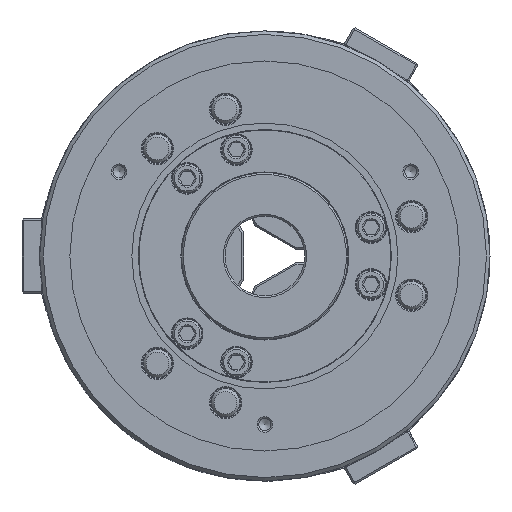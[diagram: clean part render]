
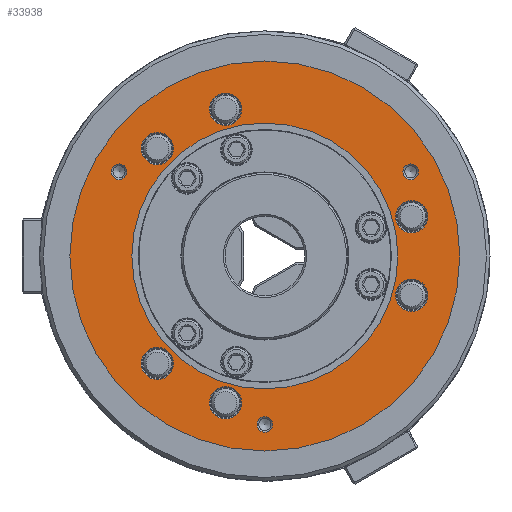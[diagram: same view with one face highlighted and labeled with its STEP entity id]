
A CAD part, left-side view. The second image highlights one B-rep face of the part: STEP entity #33938.
In plain terms, the highlighted planar face has unit normal (-1, 0, 0).
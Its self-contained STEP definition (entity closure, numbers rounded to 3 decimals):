
#60 = EDGE_CURVE ( 'NONE', #26208, #26208, #19109, .T. ) ;
#2211 = DIRECTION ( 'NONE',  ( 0., 0., -1. ) ) ;
#2416 = DIRECTION ( 'NONE',  ( 1., 0., 0. ) ) ;
#2620 = AXIS2_PLACEMENT_3D ( 'NONE', #38490, #12063, #10088 ) ;
#2873 = CARTESIAN_POINT ( 'NONE',  ( -95., 110., 0. ) ) ;
#2978 = CIRCLE ( 'NONE', #20679, 9.1 ) ;
#3213 = VERTEX_POINT ( 'NONE', #46284 ) ;
#3833 = DIRECTION ( 'NONE',  ( 0., 0., 1. ) ) ;
#3981 = DIRECTION ( 'NONE',  ( 0., 0., -1. ) ) ;
#5958 = DIRECTION ( 'NONE',  ( 0., 0., -1. ) ) ;
#7465 = DIRECTION ( 'NONE',  ( -1., 0., 0. ) ) ;
#7972 = AXIS2_PLACEMENT_3D ( 'NONE', #16095, #62318, #3981 ) ;
#8492 = CARTESIAN_POINT ( 'NONE',  ( -95., -82.272, 47.5 ) ) ;
#8906 = DIRECTION ( 'NONE',  ( 0., 0., 1. ) ) ;
#9016 = AXIS2_PLACEMENT_3D ( 'NONE', #67612, #38420, #43606 ) ;
#9031 = CARTESIAN_POINT ( 'NONE',  ( -95., 82.272, 47.5 ) ) ;
#10088 = DIRECTION ( 'NONE',  ( 0., 0., 1. ) ) ;
#10988 = EDGE_LOOP ( 'NONE', ( #41197 ) ) ;
#11240 = CARTESIAN_POINT ( 'NONE',  ( -95., 22.187, 73.704 ) ) ;
#11298 = VERTEX_POINT ( 'NONE', #32515 ) ;
#12063 = DIRECTION ( 'NONE',  ( -1., 0., 0. ) ) ;
#13618 = EDGE_CURVE ( 'NONE', #16456, #16456, #32341, .T. ) ;
#14098 = ORIENTED_EDGE ( 'NONE', *, *, #60, .T. ) ;
#14304 = FACE_BOUND ( 'NONE', #16728, .T. ) ;
#14305 = CARTESIAN_POINT ( 'NONE',  ( -95., 0., -90.6 ) ) ;
#15001 = ORIENTED_EDGE ( 'NONE', *, *, #21944, .T. ) ;
#15083 = ORIENTED_EDGE ( 'NONE', *, *, #62509, .T. ) ;
#16095 = CARTESIAN_POINT ( 'NONE',  ( -95., 60.617, -60.617 ) ) ;
#16456 = VERTEX_POINT ( 'NONE', #11240 ) ;
#16641 = EDGE_CURVE ( 'NONE', #46932, #46932, #17044, .T. ) ;
#16728 = EDGE_LOOP ( 'NONE', ( #31790 ) ) ;
#17044 = CIRCLE ( 'NONE', #2620, 110. ) ;
#17207 = CIRCLE ( 'NONE', #64849, 4.4 ) ;
#17209 = CARTESIAN_POINT ( 'NONE',  ( -95., 82.272, 51.9 ) ) ;
#17259 = EDGE_LOOP ( 'NONE', ( #44521 ) ) ;
#18839 = FACE_OUTER_BOUND ( 'NONE', #23480, .T. ) ;
#19109 = CIRCLE ( 'NONE', #7972, 9.1 ) ;
#19714 = AXIS2_PLACEMENT_3D ( 'NONE', #52028, #57572, #62786 ) ;
#19749 = ORIENTED_EDGE ( 'NONE', *, *, #13618, .T. ) ;
#20593 = DIRECTION ( 'NONE',  ( 1., 0., 0. ) ) ;
#20679 = AXIS2_PLACEMENT_3D ( 'NONE', #60405, #2416, #65965 ) ;
#21944 = EDGE_CURVE ( 'NONE', #26745, #26745, #40391, .T. ) ;
#22874 = EDGE_LOOP ( 'NONE', ( #15001 ) ) ;
#23480 = EDGE_LOOP ( 'NONE', ( #63159 ) ) ;
#23544 = EDGE_CURVE ( 'NONE', #47805, #47805, #17207, .T. ) ;
#23663 = EDGE_LOOP ( 'NONE', ( #19749 ) ) ;
#23779 = DIRECTION ( 'NONE',  ( -1., 0., 0. ) ) ;
#23912 = ORIENTED_EDGE ( 'NONE', *, *, #29053, .T. ) ;
#24551 = DIRECTION ( 'NONE',  ( -1., 0., 0. ) ) ;
#24728 = DIRECTION ( 'NONE',  ( 1., 0., 0. ) ) ;
#25269 = CIRCLE ( 'NONE', #19714, 9.1 ) ;
#25697 = DIRECTION ( 'NONE',  ( -1., 0., 0. ) ) ;
#26208 = VERTEX_POINT ( 'NONE', #46380 ) ;
#26745 = VERTEX_POINT ( 'NONE', #30618 ) ;
#29053 = EDGE_CURVE ( 'NONE', #11298, #11298, #49199, .T. ) ;
#30618 = CARTESIAN_POINT ( 'NONE',  ( -95., -82.804, 13.087 ) ) ;
#30647 = FACE_BOUND ( 'NONE', #35904, .T. ) ;
#31790 = ORIENTED_EDGE ( 'NONE', *, *, #23544, .F. ) ;
#32341 = CIRCLE ( 'NONE', #9016, 9.1 ) ;
#32515 = CARTESIAN_POINT ( 'NONE',  ( -95., 22.187, -91.904 ) ) ;
#33938 = ADVANCED_FACE ( 'NONE', ( #14304, #55992, #30647, #40043, #51488, #40740, #45594, #62231, #35864, #34833, #18839 ), #62579, .F. ) ;
#34833 = FACE_BOUND ( 'NONE', #59391, .T. ) ;
#35180 = VERTEX_POINT ( 'NONE', #35865 ) ;
#35563 = AXIS2_PLACEMENT_3D ( 'NONE', #45675, #23779, #61274 ) ;
#35864 = FACE_BOUND ( 'NONE', #59804, .T. ) ;
#35865 = CARTESIAN_POINT ( 'NONE',  ( -95., -82.804, -31.287 ) ) ;
#35904 = EDGE_LOOP ( 'NONE', ( #23912 ) ) ;
#36565 = EDGE_LOOP ( 'NONE', ( #14098 ) ) ;
#37939 = EDGE_CURVE ( 'NONE', #57447, #57447, #40030, .T. ) ;
#38420 = DIRECTION ( 'NONE',  ( 1., 0., 0. ) ) ;
#38490 = CARTESIAN_POINT ( 'NONE',  ( -95., 0., 0. ) ) ;
#40030 = CIRCLE ( 'NONE', #42207, 4.4 ) ;
#40043 = FACE_BOUND ( 'NONE', #36565, .T. ) ;
#40391 = CIRCLE ( 'NONE', #60327, 9.1 ) ;
#40740 = FACE_BOUND ( 'NONE', #23663, .T. ) ;
#40819 = CARTESIAN_POINT ( 'NONE',  ( -95., -82.272, 51.9 ) ) ;
#41021 = CIRCLE ( 'NONE', #66507, 4.4 ) ;
#41197 = ORIENTED_EDGE ( 'NONE', *, *, #37939, .F. ) ;
#41387 = CARTESIAN_POINT ( 'NONE',  ( -95., 0., 110. ) ) ;
#41559 = AXIS2_PLACEMENT_3D ( 'NONE', #2873, #24728, #67111 ) ;
#42207 = AXIS2_PLACEMENT_3D ( 'NONE', #8492, #7465, #60602 ) ;
#43606 = DIRECTION ( 'NONE',  ( 0., 0., -1. ) ) ;
#44243 = CARTESIAN_POINT ( 'NONE',  ( -95., 22.187, -82.804 ) ) ;
#44521 = ORIENTED_EDGE ( 'NONE', *, *, #45220, .T. ) ;
#45220 = EDGE_CURVE ( 'NONE', #51215, #51215, #25269, .T. ) ;
#45594 = FACE_BOUND ( 'NONE', #53402, .T. ) ;
#45675 = CARTESIAN_POINT ( 'NONE',  ( -95., 0., 0. ) ) ;
#45740 = ORIENTED_EDGE ( 'NONE', *, *, #67251, .F. ) ;
#46284 = CARTESIAN_POINT ( 'NONE',  ( -95., 0., 75. ) ) ;
#46380 = CARTESIAN_POINT ( 'NONE',  ( -95., 60.617, -69.717 ) ) ;
#46932 = VERTEX_POINT ( 'NONE', #41387 ) ;
#47805 = VERTEX_POINT ( 'NONE', #17209 ) ;
#49199 = CIRCLE ( 'NONE', #51464, 9.1 ) ;
#51070 = CIRCLE ( 'NONE', #35563, 75. ) ;
#51215 = VERTEX_POINT ( 'NONE', #62992 ) ;
#51464 = AXIS2_PLACEMENT_3D ( 'NONE', #44243, #64363, #2211 ) ;
#51488 = FACE_BOUND ( 'NONE', #17259, .T. ) ;
#52028 = CARTESIAN_POINT ( 'NONE',  ( -95., 60.617, 60.617 ) ) ;
#53402 = EDGE_LOOP ( 'NONE', ( #45740 ) ) ;
#55992 = FACE_BOUND ( 'NONE', #10988, .T. ) ;
#56153 = CARTESIAN_POINT ( 'NONE',  ( -95., 0., -95. ) ) ;
#57397 = CARTESIAN_POINT ( 'NONE',  ( -95., -82.804, 22.187 ) ) ;
#57447 = VERTEX_POINT ( 'NONE', #40819 ) ;
#57572 = DIRECTION ( 'NONE',  ( 1., 0., 0. ) ) ;
#59391 = EDGE_LOOP ( 'NONE', ( #67927 ) ) ;
#59804 = EDGE_LOOP ( 'NONE', ( #15083 ) ) ;
#60327 = AXIS2_PLACEMENT_3D ( 'NONE', #57397, #20593, #5958 ) ;
#60405 = CARTESIAN_POINT ( 'NONE',  ( -95., -82.804, -22.187 ) ) ;
#60602 = DIRECTION ( 'NONE',  ( 0., 0., 1. ) ) ;
#61274 = DIRECTION ( 'NONE',  ( 0., 0., 1. ) ) ;
#62231 = FACE_BOUND ( 'NONE', #22874, .T. ) ;
#62318 = DIRECTION ( 'NONE',  ( 1., 0., 0. ) ) ;
#62509 = EDGE_CURVE ( 'NONE', #35180, #35180, #2978, .T. ) ;
#62579 = PLANE ( 'NONE',  #41559 ) ;
#62786 = DIRECTION ( 'NONE',  ( 0., 0., -1. ) ) ;
#62992 = CARTESIAN_POINT ( 'NONE',  ( -95., 60.617, 51.517 ) ) ;
#63159 = ORIENTED_EDGE ( 'NONE', *, *, #16641, .T. ) ;
#64363 = DIRECTION ( 'NONE',  ( 1., 0., 0. ) ) ;
#64849 = AXIS2_PLACEMENT_3D ( 'NONE', #9031, #25697, #3833 ) ;
#65965 = DIRECTION ( 'NONE',  ( 0., 0., -1. ) ) ;
#66507 = AXIS2_PLACEMENT_3D ( 'NONE', #56153, #24551, #8906 ) ;
#67111 = DIRECTION ( 'NONE',  ( 0., 0., -1. ) ) ;
#67112 = VERTEX_POINT ( 'NONE', #14305 ) ;
#67251 = EDGE_CURVE ( 'NONE', #67112, #67112, #41021, .T. ) ;
#67610 = EDGE_CURVE ( 'NONE', #3213, #3213, #51070, .T. ) ;
#67612 = CARTESIAN_POINT ( 'NONE',  ( -95., 22.187, 82.804 ) ) ;
#67927 = ORIENTED_EDGE ( 'NONE', *, *, #67610, .F. ) ;
